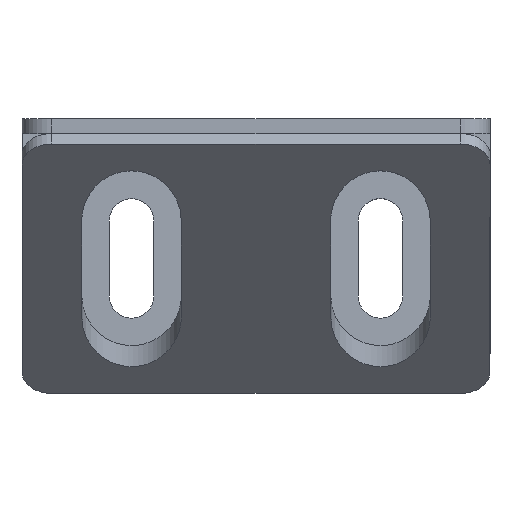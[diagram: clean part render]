
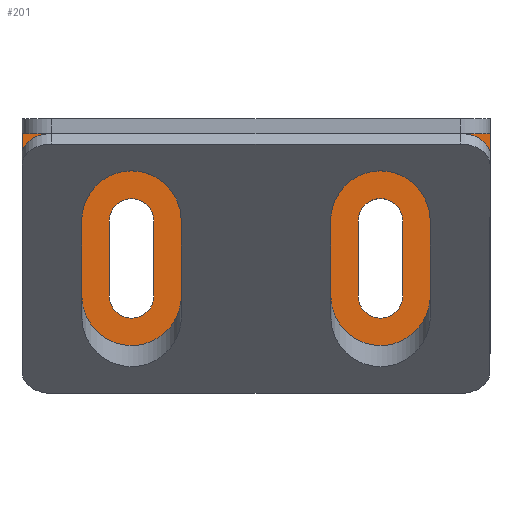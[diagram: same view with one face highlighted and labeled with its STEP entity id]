
A CAD part, top view. The second image highlights one B-rep face of the part: STEP entity #201.
In plain terms, the highlighted planar face has unit normal (0, 0, 1).
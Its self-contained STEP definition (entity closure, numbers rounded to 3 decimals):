
#43 = CARTESIAN_POINT ( 'NONE',  ( 16.987, 22.153, 3. ) ) ;
#52 = CARTESIAN_POINT ( 'NONE',  ( 7.987, 22.156, 3. ) ) ;
#59 = CARTESIAN_POINT ( 'NONE',  ( -37.513, 22.149, 3. ) ) ;
#71 = ORIENTED_EDGE ( 'NONE', *, *, #1205, .F. ) ;
#82 = CARTESIAN_POINT ( 'NONE',  ( 16.987, 7.153, 3. ) ) ;
#100 = CIRCLE ( 'NONE', #119, 6. ) ;
#112 = EDGE_CURVE ( 'NONE', #381, #725, #548, .T. ) ;
#119 = AXIS2_PLACEMENT_3D ( 'NONE', #192, #924, #301 ) ;
#132 = EDGE_CURVE ( 'NONE', #1295, #628, #241, .T. ) ;
#144 = ORIENTED_EDGE ( 'NONE', *, *, #194, .F. ) ;
#150 = EDGE_CURVE ( 'NONE', #1094, #1323, #519, .T. ) ;
#157 = DIRECTION ( 'NONE',  ( 1., 0., 0. ) ) ;
#158 = DIRECTION ( 'NONE',  ( 0., 0., 1. ) ) ;
#186 = VECTOR ( 'NONE', #586, 1000. ) ;
#192 = CARTESIAN_POINT ( 'NONE',  ( 28.487, -4.351, 3. ) ) ;
#194 = EDGE_CURVE ( 'NONE', #334, #959, #1101, .T. ) ;
#201 = ADVANCED_FACE ( 'NONE', ( #266, #532, #819 ), #1263, .T. ) ;
#209 = VECTOR ( 'NONE', #1224, 1000. ) ;
#211 = VECTOR ( 'NONE', #483, 1000. ) ;
#230 = CARTESIAN_POINT ( 'NONE',  ( 12.487, 7.153, 3. ) ) ;
#236 = EDGE_LOOP ( 'NONE', ( #1277, #521, #878, #895 ) ) ;
#241 = LINE ( 'NONE', #288, #284 ) ;
#258 = AXIS2_PLACEMENT_3D ( 'NONE', #781, #158, #885 ) ;
#259 = EDGE_LOOP ( 'NONE', ( #1236, #722, #71, #144 ) ) ;
#266 = FACE_BOUND ( 'NONE', #236, .T. ) ;
#282 = ORIENTED_EDGE ( 'NONE', *, *, #811, .T. ) ;
#284 = VECTOR ( 'NONE', #492, 1000. ) ;
#288 = CARTESIAN_POINT ( 'NONE',  ( -42.013, 7.149, 3. ) ) ;
#291 = LINE ( 'NONE', #979, #1081 ) ;
#301 = DIRECTION ( 'NONE',  ( 1., 0., 0. ) ) ;
#304 = CIRCLE ( 'NONE', #320, 4.5 ) ;
#320 = AXIS2_PLACEMENT_3D ( 'NONE', #469, #1201, #573 ) ;
#321 = CARTESIAN_POINT ( 'NONE',  ( -42.013, 22.149, 3. ) ) ;
#325 = VECTOR ( 'NONE', #1064, 1000. ) ;
#334 = VERTEX_POINT ( 'NONE', #984 ) ;
#337 = DIRECTION ( 'NONE',  ( 1., 0., 0. ) ) ;
#381 = VERTEX_POINT ( 'NONE', #879 ) ;
#398 = ORIENTED_EDGE ( 'NONE', *, *, #150, .T. ) ;
#445 = DIRECTION ( 'NONE',  ( 1., 0., 0. ) ) ;
#456 = EDGE_CURVE ( 'NONE', #725, #567, #1318, .T. ) ;
#457 = CARTESIAN_POINT ( 'NONE',  ( -33.013, 7.149, 3. ) ) ;
#462 = LINE ( 'NONE', #791, #186 ) ;
#469 = CARTESIAN_POINT ( 'NONE',  ( -37.513, 7.149, 3. ) ) ;
#483 = DIRECTION ( 'NONE',  ( 1., 0., 0. ) ) ;
#490 = EDGE_CURVE ( 'NONE', #1091, #1068, #462, .T. ) ;
#492 = DIRECTION ( 'NONE',  ( 0., -1., 0. ) ) ;
#507 = EDGE_CURVE ( 'NONE', #619, #334, #1283, .T. ) ;
#519 = LINE ( 'NONE', #809, #209 ) ;
#521 = ORIENTED_EDGE ( 'NONE', *, *, #1139, .F. ) ;
#532 = FACE_OUTER_BOUND ( 'NONE', #588, .T. ) ;
#548 = CIRCLE ( 'NONE', #742, 6. ) ;
#567 = VERTEX_POINT ( 'NONE', #808 ) ;
#570 = CARTESIAN_POINT ( 'NONE',  ( 34.487, 39.649, 3. ) ) ;
#573 = DIRECTION ( 'NONE',  ( 1., 0., 0. ) ) ;
#585 = VERTEX_POINT ( 'NONE', #43 ) ;
#586 = DIRECTION ( 'NONE',  ( 0., 1., 0. ) ) ;
#588 = EDGE_LOOP ( 'NONE', ( #939, #624, #783, #282, #593, #398 ) ) ;
#593 = ORIENTED_EDGE ( 'NONE', *, *, #1151, .T. ) ;
#595 = CARTESIAN_POINT ( 'NONE',  ( -53.513, -4.351, 3. ) ) ;
#610 = LINE ( 'NONE', #743, #325 ) ;
#619 = VERTEX_POINT ( 'NONE', #52 ) ;
#624 = ORIENTED_EDGE ( 'NONE', *, *, #112, .T. ) ;
#628 = VERTEX_POINT ( 'NONE', #1195 ) ;
#678 = VECTOR ( 'NONE', #680, 1000. ) ;
#680 = DIRECTION ( 'NONE',  ( 0., 1., 0. ) ) ;
#695 = CARTESIAN_POINT ( 'NONE',  ( 7.987, 7.153, 3. ) ) ;
#702 = DIRECTION ( 'NONE',  ( 1., 0., 0. ) ) ;
#722 = ORIENTED_EDGE ( 'NONE', *, *, #841, .F. ) ;
#725 = VERTEX_POINT ( 'NONE', #1124 ) ;
#742 = AXIS2_PLACEMENT_3D ( 'NONE', #595, #1310, #702 ) ;
#743 = CARTESIAN_POINT ( 'NONE',  ( 16.987, 22.153, 3. ) ) ;
#747 = CARTESIAN_POINT ( 'NONE',  ( -53.513, -4.351, 3. ) ) ;
#762 = CARTESIAN_POINT ( 'NONE',  ( -33.013, 22.149, 3. ) ) ;
#779 = DIRECTION ( 'NONE',  ( 0., 0., 1. ) ) ;
#781 = CARTESIAN_POINT ( 'NONE',  ( 12.487, 22.153, 3. ) ) ;
#783 = ORIENTED_EDGE ( 'NONE', *, *, #456, .T. ) ;
#791 = CARTESIAN_POINT ( 'NONE',  ( -33.013, 22.149, 3. ) ) ;
#794 = DIRECTION ( 'NONE',  ( 0., -1., 0. ) ) ;
#808 = CARTESIAN_POINT ( 'NONE',  ( 28.487, -10.351, 3. ) ) ;
#809 = CARTESIAN_POINT ( 'NONE',  ( 34.487, 39.649, 3. ) ) ;
#811 = EDGE_CURVE ( 'NONE', #567, #873, #100, .T. ) ;
#819 = FACE_BOUND ( 'NONE', #259, .T. ) ;
#831 = EDGE_CURVE ( 'NONE', #628, #1091, #304, .T. ) ;
#841 = EDGE_CURVE ( 'NONE', #585, #619, #1103, .T. ) ;
#843 = CARTESIAN_POINT ( 'NONE',  ( -59.513, 39.649, 3. ) ) ;
#873 = VERTEX_POINT ( 'NONE', #1098 ) ;
#878 = ORIENTED_EDGE ( 'NONE', *, *, #490, .F. ) ;
#879 = CARTESIAN_POINT ( 'NONE',  ( -59.513, -4.351, 3. ) ) ;
#885 = DIRECTION ( 'NONE',  ( 1., 0., 0. ) ) ;
#891 = AXIS2_PLACEMENT_3D ( 'NONE', #230, #961, #337 ) ;
#895 = ORIENTED_EDGE ( 'NONE', *, *, #831, .F. ) ;
#924 = DIRECTION ( 'NONE',  ( 0., 0., 1. ) ) ;
#939 = ORIENTED_EDGE ( 'NONE', *, *, #1117, .T. ) ;
#944 = LINE ( 'NONE', #570, #678 ) ;
#959 = VERTEX_POINT ( 'NONE', #82 ) ;
#961 = DIRECTION ( 'NONE',  ( 0., 0., 1. ) ) ;
#968 = AXIS2_PLACEMENT_3D ( 'NONE', #59, #779, #157 ) ;
#979 = CARTESIAN_POINT ( 'NONE',  ( -59.513, 39.649, 3. ) ) ;
#981 = VECTOR ( 'NONE', #794, 1000. ) ;
#984 = CARTESIAN_POINT ( 'NONE',  ( 7.987, 7.153, 3. ) ) ;
#1045 = CIRCLE ( 'NONE', #968, 4.5 ) ;
#1064 = DIRECTION ( 'NONE',  ( 0., 1., 0. ) ) ;
#1066 = DIRECTION ( 'NONE',  ( 0., 0., 1. ) ) ;
#1068 = VERTEX_POINT ( 'NONE', #762 ) ;
#1081 = VECTOR ( 'NONE', #1086, 1000. ) ;
#1086 = DIRECTION ( 'NONE',  ( 0., -1., 0. ) ) ;
#1091 = VERTEX_POINT ( 'NONE', #457 ) ;
#1094 = VERTEX_POINT ( 'NONE', #1275 ) ;
#1098 = CARTESIAN_POINT ( 'NONE',  ( 34.487, -4.353, 3. ) ) ;
#1101 = CIRCLE ( 'NONE', #891, 4.5 ) ;
#1103 = CIRCLE ( 'NONE', #258, 4.5 ) ;
#1117 = EDGE_CURVE ( 'NONE', #1323, #381, #291, .T. ) ;
#1124 = CARTESIAN_POINT ( 'NONE',  ( -53.513, -10.351, 3. ) ) ;
#1139 = EDGE_CURVE ( 'NONE', #1068, #1295, #1045, .T. ) ;
#1151 = EDGE_CURVE ( 'NONE', #873, #1094, #944, .T. ) ;
#1195 = CARTESIAN_POINT ( 'NONE',  ( -42.013, 7.149, 3. ) ) ;
#1201 = DIRECTION ( 'NONE',  ( 0., 0., 1. ) ) ;
#1205 = EDGE_CURVE ( 'NONE', #959, #585, #610, .T. ) ;
#1224 = DIRECTION ( 'NONE',  ( -1., 0., 0. ) ) ;
#1236 = ORIENTED_EDGE ( 'NONE', *, *, #507, .F. ) ;
#1263 = PLANE ( 'NONE',  #1302 ) ;
#1275 = CARTESIAN_POINT ( 'NONE',  ( 34.487, 39.649, 3. ) ) ;
#1277 = ORIENTED_EDGE ( 'NONE', *, *, #132, .F. ) ;
#1283 = LINE ( 'NONE', #695, #981 ) ;
#1295 = VERTEX_POINT ( 'NONE', #321 ) ;
#1300 = CARTESIAN_POINT ( 'NONE',  ( 28.487, -10.351, 3. ) ) ;
#1302 = AXIS2_PLACEMENT_3D ( 'NONE', #747, #1066, #445 ) ;
#1310 = DIRECTION ( 'NONE',  ( 0., 0., 1. ) ) ;
#1318 = LINE ( 'NONE', #1300, #211 ) ;
#1323 = VERTEX_POINT ( 'NONE', #843 ) ;
